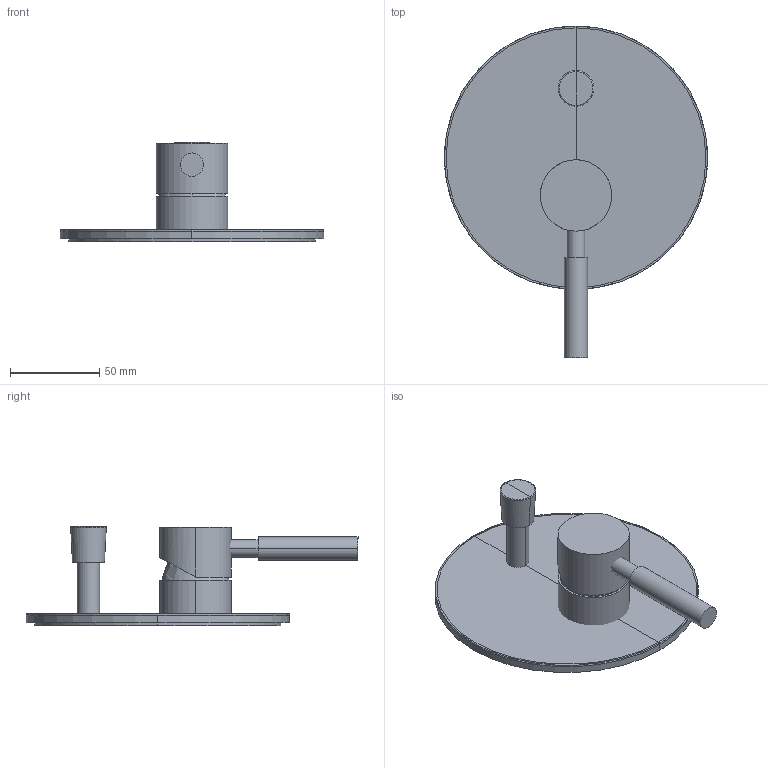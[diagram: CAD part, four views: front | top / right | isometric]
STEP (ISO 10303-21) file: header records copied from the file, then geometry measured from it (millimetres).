
FILE_DESCRIPTION(('FreeCAD Model'),'2;1');
FILE_NAME('Open CASCADE Shape Model','2024-07-23T15:50:58',('Author'),( ''),'Open CASCADE STEP processor 7.6','FreeCAD','Unknown');
FILE_SCHEMA(('AUTOMOTIVE_DESIGN { 1 0 10303 214 1 1 1 1 }'));
Length unit declared in the file: millimetre
Products named in the file (11): TopLevelAssembly; Obrót profilu; Obrót profilu001; Wyciąganie001; Wyciąganie002; Połączona geometria bryłowa002; Połączona geometria bryłowa; Połączona geometria bryłowa001; Połączona geometria bryłowa003; Połączona geometria bryłowa005; Wyciąganie007
Assembly tree (10 placements, depth 3):
  TopLevelAssembly
    Obrót profilu
    Obrót profilu001
    Wyciąganie001
    Wyciąganie002
    Połączona geometria bryłowa002
      Połączona geometria bryłowa
      Połączona geometria bryłowa001
    Połączona geometria bryłowa003
    Połączona geometria bryłowa005
    Wyciąganie007
Bounding box: 147.56 x 186 x 55.5 mm (x, y, z)
Volume: 288858.3 mm3; surface area: 124240.3 mm2
Topology: 9 solids, 9 shells, 49 faces, 76 edges, 43 vertices
Faces by surface type: plane 25, cylinder 16, bspline 8
Entity records: 1440 total; most frequent: CARTESIAN_POINT 299, DIRECTION 226, ORIENTED_EDGE 148, AXIS2_PLACEMENT_3D 100, EDGE_CURVE 74, ADVANCED_FACE 49, FACE_BOUND 49, EDGE_LOOP 49
